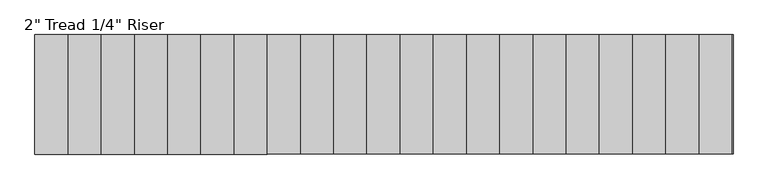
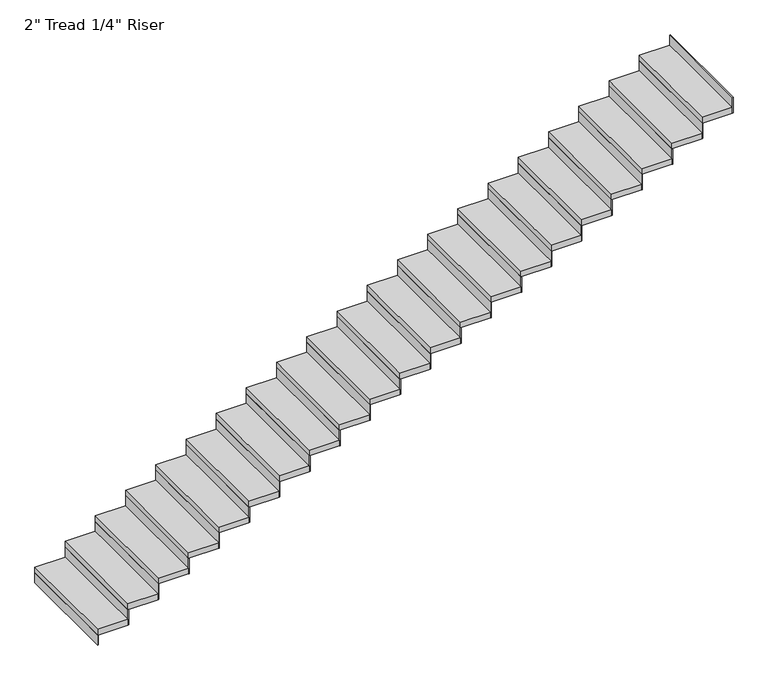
"""IFC4 building model written with IfcOpenShell, lengths in millimetres: stair flight geometry."""

import ifcopenshell
import ifcopenshell.guid

model = None  # the IFC model being written
_history = None  # IfcOwnerHistory: only IFC2X3 demands one
_inside = {}  # id of a spatial element -> (the spatial element, [elements in it])
_under = {}  # id of a project, library or spatial element -> (it, [spatial elements below it])
_declared = {}  # id of a project -> (the project, [libraries it declares])
_typed = {}  # id of a type object -> (the type object, [elements of that type])
_made_of = {}  # id of a material, layer set ... -> (it, [elements and type objects made of it])


def new_model(schema):
    """Start an empty IFC model of exactly this schema.

    Asked for "IFC4X3", IfcOpenShell would pick the latest addendum, in which some entities
    have other attributes; the version numbers below select the first issue.
    IFC2X3 requires an IfcOwnerHistory on every rooted entity: one is made here for all.
    """
    global model, _history
    if schema == "IFC4X3":
        model = ifcopenshell.file(schema_version=(4, 3, 0, 0))
    else:
        model = ifcopenshell.file(schema=schema)
    _inside.clear()
    _under.clear()
    _declared.clear()
    _typed.clear()
    _made_of.clear()
    _history = None
    if model.schema == "IFC2X3":
        org = make("IfcOrganization", Name="unknown")
        user = make(
            "IfcPersonAndOrganization",
            ThePerson=make("IfcPerson", FamilyName="unknown"),
            TheOrganization=org,
        )
        app = make(
            "IfcApplication",
            ApplicationDeveloper=org,
            Version="unknown",
            ApplicationFullName="unknown",
            ApplicationIdentifier="unknown",
        )
        _history = make(
            "IfcOwnerHistory",
            OwningUser=user,
            OwningApplication=app,
            ChangeAction="ADDED",
            CreationDate=0,
        )
    return model


def make(cls, **values):
    """One entity of the class cls with the attributes given. An attribute that is None is left unset."""
    return model.create_entity(
        cls, **{name: value for name, value in values.items() if value is not None}
    )


def rooted(cls, **values):
    """An entity with a GlobalId (a new one), such as an element, a storey or a relation."""
    return make(cls, GlobalId=ifcopenshell.guid.new(), OwnerHistory=_history, **values)


def si_unit(unit_type, name, prefix=None):
    """IfcSIUnit, for example si_unit("LENGTHUNIT", "METRE", prefix="MILLI")."""
    return make("IfcSIUnit", UnitType=unit_type, Prefix=prefix, Name=name)


def assignment(units):
    """IfcUnitAssignment: the units of a project."""
    return None if units is None else make("IfcUnitAssignment", Units=units)


def point(xyz):
    """IfcCartesianPoint."""
    return None if xyz is None else make("IfcCartesianPoint", Coordinates=xyz)


def direction(xyz):
    """IfcDirection."""
    return None if xyz is None else make("IfcDirection", DirectionRatios=xyz)


def frame(location, z_axis=None, x_axis=None):
    """IfcAxis2Placement3D, a coordinate frame: its origin and axes. An axis left out is left unset."""
    return make(
        "IfcAxis2Placement3D",
        Location=point(location),
        Axis=direction(z_axis),
        RefDirection=direction(x_axis),
    )


def origin():
    """The frame at (0, 0, 0) with its axes left unset."""
    return frame((0.0, 0.0, 0.0))


def origin_with_axes():
    """The frame at (0, 0, 0) with the z axis (0, 0, 1) and the x axis (1, 0, 0) written out."""
    return frame((0.0, 0.0, 0.0), z_axis=(0.0, 0.0, 1.0), x_axis=(1.0, 0.0, 0.0))


def place(relative_to, where):
    """IfcLocalPlacement: puts the frame where relative to a parent placement (None: the world)."""
    return make(
        "IfcLocalPlacement", PlacementRelTo=relative_to, RelativePlacement=where
    )


def context(
    kind, dimensions, precision=None, world=None, true_north=None, identifier=None
):
    """IfcGeometricRepresentationContext, for example the 3D "Model" context."""
    return make(
        "IfcGeometricRepresentationContext",
        ContextIdentifier=identifier,
        ContextType=kind,
        CoordinateSpaceDimension=dimensions,
        Precision=precision,
        WorldCoordinateSystem=world,
        TrueNorth=true_north,
    )


def project(units=None, contexts=None):
    """IfcProject with its units and contexts."""
    return rooted(
        "IfcProject",
        Name="project",
        RepresentationContexts=contexts,
        UnitsInContext=assignment(units),
    )


def spatial(cls, under=None, at=None, **own):
    """A site, building, storey or space (cls), placed at a placement, below another one or the project."""
    s = rooted(cls, ObjectPlacement=at, **own)
    if under is not None:
        _under.setdefault(under.id(), (under, []))[1].append(s)
    return s


def polyline(points):
    """IfcPolyline through the points."""
    return make("IfcPolyline", Points=[point(p) for p in points])


def outline(outer, holes=None, kind="AREA"):
    """IfcArbitraryClosedProfileDef: a profile drawn as a closed curve; with holes, ...WithVoids."""
    if holes is None:
        return make("IfcArbitraryClosedProfileDef", ProfileType=kind, OuterCurve=outer)
    return make(
        "IfcArbitraryProfileDefWithVoids",
        ProfileType=kind,
        OuterCurve=outer,
        InnerCurves=holes,
    )


def extrude(swept, where, along, depth):
    """IfcExtrudedAreaSolid: the profile swept, set in the frame where, extruded along a direction by depth."""
    return make(
        "IfcExtrudedAreaSolid",
        SweptArea=swept,
        Position=where,
        ExtrudedDirection=direction(along),
        Depth=depth,
    )


def shape(context_of_items, identifier, shape_type, items):
    """IfcShapeRepresentation: the items that make up one representation, for example the "Body"."""
    return make(
        "IfcShapeRepresentation",
        ContextOfItems=context_of_items,
        RepresentationIdentifier=identifier,
        RepresentationType=shape_type,
        Items=items,
    )


def source(mapping_origin, context_of_items, identifier, shape_type, items):
    """IfcRepresentationMap: a shape defined once, which mapped items show again and again."""
    return make(
        "IfcRepresentationMap",
        MappingOrigin=mapping_origin,
        MappedRepresentation=shape(context_of_items, identifier, shape_type, items),
    )


def transform(
    local_origin,
    x_axis=None,
    y_axis=None,
    z_axis=None,
    scale=None,
    scale2=None,
    scale3=None,
    uniform=True,
):
    """IfcCartesianTransformationOperator3D, or its non-uniform kind. x_axis, y_axis, z_axis: its Axis1, 2, 3."""
    if uniform:
        return make(
            "IfcCartesianTransformationOperator3D",
            Axis1=direction(x_axis),
            Axis2=direction(y_axis),
            LocalOrigin=point(local_origin),
            Scale=scale,
            Axis3=direction(z_axis),
        )
    return make(
        "IfcCartesianTransformationOperator3DnonUniform",
        Axis1=direction(x_axis),
        Axis2=direction(y_axis),
        LocalOrigin=point(local_origin),
        Scale=scale,
        Axis3=direction(z_axis),
        Scale2=scale2,
        Scale3=scale3,
    )


def mapped(mapping_source, mapping_target):
    """IfcMappedItem: shows the shape of a source again, moved by a transform."""
    return make(
        "IfcMappedItem", MappingSource=mapping_source, MappingTarget=mapping_target
    )


def made_of(thing, what):
    """Note that an element or type object is made of a material, layer set ...; save() writes the relation."""
    if what is not None:
        _made_of.setdefault(what.id(), (what, []))[1].append(thing)
    return thing


def element(
    cls,
    number,
    at=None,
    inside=None,
    cuts=None,
    type_object=None,
    material=None,
    context=None,
    identifier="Body",
    shape_type=None,
    held_by="IfcProductDefinitionShape",
    body=None,
    shapes=None,
    **own,
):
    """One element of the class cls, such as IfcWall. Its Tag is "e" and its number.

    at: its placement. inside: the storey or other place that contains it. cuts: it is an
    opening in that element (IfcRelVoidsElement). A single representation is given by context,
    identifier, shape_type and body (its items); several are given by shapes. held_by: the class
    of the entity that holds the representations. save() writes the other relations.
    """
    e = rooted(cls, Tag="e%d" % number, ObjectPlacement=at, **own)
    if body is not None:
        shapes = [shape(context, identifier, shape_type, body)]
    if shapes is not None:
        e.Representation = make(held_by, Representations=shapes)
    if inside is not None:
        _inside.setdefault(inside.id(), (inside, []))[1].append(e)
    if cuts is not None:
        rooted(
            "IfcRelVoidsElement", RelatingBuildingElement=cuts, RelatedOpeningElement=e
        )
    if type_object is not None:
        _typed.setdefault(type_object.id(), (type_object, []))[1].append(e)
    return made_of(e, material)


def aggregate(whole, parts):
    """IfcRelAggregates: a whole, such as a stair, and the parts it consists of."""
    return rooted("IfcRelAggregates", RelatingObject=whole, RelatedObjects=parts)


def save(model, path):
    """Write the relations noted so far, then the file.

    IfcRelAggregates (storeys below a building ...), IfcRelContainedInSpatialStructure (elements
    in a storey), IfcRelDefinesByType, IfcRelAssociatesMaterial and IfcRelDeclares: one each for
    every whole, place, type object, material and project.
    """
    for whole, parts in _under.values():
        aggregate(whole, parts)
    for where, things in _inside.values():
        rooted(
            "IfcRelContainedInSpatialStructure",
            RelatedElements=things,
            RelatingStructure=where,
        )
    for kind, things in _typed.values():
        rooted("IfcRelDefinesByType", RelatedObjects=things, RelatingType=kind)
    for what, things in _made_of.values():
        rooted("IfcRelAssociatesMaterial", RelatedObjects=things, RelatingMaterial=what)
    for by, libraries in _declared.values():
        rooted("IfcRelDeclares", RelatingContext=by, RelatedDefinitions=libraries)
    model.write(path)


def stair_flight_6f39d71a(model_context):
    return source(origin(), model_context, "Body", "SweptSolid", [
        extrude(outline(polyline([(-12441.2873599, 34015.6739583), (-12447.6373599, 34015.6739583), (-12447.6373599, 34930.0739583), (-12441.2873599, 34930.0739583), (-12441.2873599, 34015.6739583)])), origin_with_axes(), (0.0, 0.0, 1.0), 87.7454545),
        extrude(outline(polyline([(-12193.6373599, 34930.0739583), (-12193.6373599, 34015.6739583), (-12447.6373599, 34015.6739583), (-12447.6373599, 34930.0739583), (-12193.6373599, 34930.0739583)])), frame((0.0, 0.0, 87.7454545), z_axis=(0.0, 0.0, 1.0), x_axis=(1.0, 0.0, 0.0)), (0.0, 0.0, 1.0), 50.8),
        extrude(outline(polyline([(-12187.2873599, 34015.6739583), (-12193.6373599, 34015.6739583), (-12193.6373599, 34930.0739583), (-12187.2873599, 34930.0739583), (-12187.2873599, 34015.6739583)])), frame((0.0, 0.0, 87.7454545), z_axis=(0.0, 0.0, 1.0), x_axis=(1.0, 0.0, 0.0)), (0.0, 0.0, 1.0), 138.5454545),
        extrude(outline(polyline([(-11939.6373599, 34930.0739583), (-11939.6373599, 34015.6739583), (-12193.6373599, 34015.6739583), (-12193.6373599, 34930.0739583), (-11939.6373599, 34930.0739583)])), frame((0.0, 0.0, 226.2909091), z_axis=(0.0, 0.0, 1.0), x_axis=(1.0, 0.0, 0.0)), (0.0, 0.0, 1.0), 50.8),
        extrude(outline(polyline([(-11933.2873599, 34015.6739583), (-11939.6373599, 34015.6739583), (-11939.6373599, 34930.0739583), (-11933.2873599, 34930.0739583), (-11933.2873599, 34015.6739583)])), frame((0.0, 0.0, 226.2909091), z_axis=(0.0, 0.0, 1.0), x_axis=(1.0, 0.0, 0.0)), (0.0, 0.0, 1.0), 138.5454545),
        extrude(outline(polyline([(-11685.6373599, 34930.0739583), (-11685.6373599, 34015.6739583), (-11939.6373599, 34015.6739583), (-11939.6373599, 34930.0739583), (-11685.6373599, 34930.0739583)])), frame((0.0, 0.0, 364.8363636), z_axis=(0.0, 0.0, 1.0), x_axis=(1.0, 0.0, 0.0)), (0.0, 0.0, 1.0), 50.8),
        extrude(outline(polyline([(-11679.2873599, 34015.6739583), (-11685.6373599, 34015.6739583), (-11685.6373599, 34930.0739583), (-11679.2873599, 34930.0739583), (-11679.2873599, 34015.6739583)])), frame((0.0, 0.0, 364.8363636), z_axis=(0.0, 0.0, 1.0), x_axis=(1.0, 0.0, 0.0)), (0.0, 0.0, 1.0), 138.5454545),
        extrude(outline(polyline([(-11431.6373599, 34930.0739583), (-11431.6373599, 34015.6739583), (-11685.6373599, 34015.6739583), (-11685.6373599, 34930.0739583), (-11431.6373599, 34930.0739583)])), frame((0.0, 0.0, 503.3818182), z_axis=(0.0, 0.0, 1.0), x_axis=(1.0, 0.0, 0.0)), (0.0, 0.0, 1.0), 50.8),
        extrude(outline(polyline([(-11425.2873599, 34015.6739583), (-11431.6373599, 34015.6739583), (-11431.6373599, 34930.0739583), (-11425.2873599, 34930.0739583), (-11425.2873599, 34015.6739583)])), frame((0.0, 0.0, 503.3818182), z_axis=(0.0, 0.0, 1.0), x_axis=(1.0, 0.0, 0.0)), (0.0, 0.0, 1.0), 138.5454545),
        extrude(outline(polyline([(-11177.6373599, 34930.0739583), (-11177.6373599, 34015.6739583), (-11431.6373599, 34015.6739583), (-11431.6373599, 34930.0739583), (-11177.6373599, 34930.0739583)])), frame((0.0, 0.0, 641.9272727), z_axis=(0.0, 0.0, 1.0), x_axis=(1.0, 0.0, 0.0)), (0.0, 0.0, 1.0), 50.8),
        extrude(outline(polyline([(-11171.2873599, 34015.6739583), (-11177.6373599, 34015.6739583), (-11177.6373599, 34930.0739583), (-11171.2873599, 34930.0739583), (-11171.2873599, 34015.6739583)])), frame((0.0, 0.0, 641.9272727), z_axis=(0.0, 0.0, 1.0), x_axis=(1.0, 0.0, 0.0)), (0.0, 0.0, 1.0), 138.5454545),
        extrude(outline(polyline([(-10923.6373599, 34930.0739583), (-10923.6373599, 34015.6739583), (-11177.6373599, 34015.6739583), (-11177.6373599, 34930.0739583), (-10923.6373599, 34930.0739583)])), frame((0.0, 0.0, 780.4727273), z_axis=(0.0, 0.0, 1.0), x_axis=(1.0, 0.0, 0.0)), (0.0, 0.0, 1.0), 50.8),
        extrude(outline(polyline([(-10917.2873599, 34015.6739583), (-10923.6373599, 34015.6739583), (-10923.6373599, 34930.0739583), (-10917.2873599, 34930.0739583), (-10917.2873599, 34015.6739583)])), frame((0.0, 0.0, 780.4727273), z_axis=(0.0, 0.0, 1.0), x_axis=(1.0, 0.0, 0.0)), (0.0, 0.0, 1.0), 138.5454545),
        extrude(outline(polyline([(-10669.6373599, 34930.0739583), (-10669.6373599, 34015.6739583), (-10923.6373599, 34015.6739583), (-10923.6373599, 34930.0739583), (-10669.6373599, 34930.0739583)])), frame((0.0, 0.0, 919.0181818), z_axis=(0.0, 0.0, 1.0), x_axis=(1.0, 0.0, 0.0)), (0.0, 0.0, 1.0), 50.8),
        extrude(outline(polyline([(-10663.2873599, 34015.6739583), (-10669.6373599, 34015.6739583), (-10669.6373599, 34930.0739583), (-10663.2873599, 34930.0739583), (-10663.2873599, 34015.6739583)])), frame((0.0, 0.0, 919.0181818), z_axis=(0.0, 0.0, 1.0), x_axis=(1.0, 0.0, 0.0)), (0.0, 0.0, 1.0), 138.5454545),
        extrude(outline(polyline([(-10415.6373599, 34930.0739583), (-10415.6373599, 34015.6739583), (-10669.6373599, 34015.6739583), (-10669.6373599, 34930.0739583), (-10415.6373599, 34930.0739583)])), frame((0.0, 0.0, 1057.5636364), z_axis=(0.0, 0.0, 1.0), x_axis=(1.0, 0.0, 0.0)), (0.0, 0.0, 1.0), 50.8),
        extrude(outline(polyline([(-10409.2873599, 34015.6739583), (-10415.6373599, 34015.6739583), (-10415.6373599, 34930.0739583), (-10409.2873599, 34930.0739583), (-10409.2873599, 34015.6739583)])), frame((0.0, 0.0, 1057.5636364), z_axis=(0.0, 0.0, 1.0), x_axis=(1.0, 0.0, 0.0)), (0.0, 0.0, 1.0), 138.5454545),
        extrude(outline(polyline([(-10161.6373599, 34930.0739583), (-10161.6373599, 34015.6739583), (-10415.6373599, 34015.6739583), (-10415.6373599, 34930.0739583), (-10161.6373599, 34930.0739583)])), frame((0.0, 0.0, 1196.1090909), z_axis=(0.0, 0.0, 1.0), x_axis=(1.0, 0.0, 0.0)), (0.0, 0.0, 1.0), 50.8),
        extrude(outline(polyline([(-10155.2873599, 34015.6739583), (-10161.6373599, 34015.6739583), (-10161.6373599, 34930.0739583), (-10155.2873599, 34930.0739583), (-10155.2873599, 34015.6739583)])), frame((0.0, 0.0, 1196.1090909), z_axis=(0.0, 0.0, 1.0), x_axis=(1.0, 0.0, 0.0)), (0.0, 0.0, 1.0), 138.5454545),
        extrude(outline(polyline([(-9907.6373599, 34930.0739583), (-9907.6373599, 34015.6739583), (-10161.6373599, 34015.6739583), (-10161.6373599, 34930.0739583), (-9907.6373599, 34930.0739583)])), frame((0.0, 0.0, 1334.6545455), z_axis=(0.0, 0.0, 1.0), x_axis=(1.0, 0.0, 0.0)), (0.0, 0.0, 1.0), 50.8),
        extrude(outline(polyline([(-9901.2873599, 34015.6739583), (-9907.6373599, 34015.6739583), (-9907.6373599, 34930.0739583), (-9901.2873599, 34930.0739583), (-9901.2873599, 34015.6739583)])), frame((0.0, 0.0, 1334.6545455), z_axis=(0.0, 0.0, 1.0), x_axis=(1.0, 0.0, 0.0)), (0.0, 0.0, 1.0), 138.5454545),
        extrude(outline(polyline([(-9653.6373599, 34930.0739583), (-9653.6373599, 34015.6739583), (-9907.6373599, 34015.6739583), (-9907.6373599, 34930.0739583), (-9653.6373599, 34930.0739583)])), frame((0.0, 0.0, 1473.2), z_axis=(0.0, 0.0, 1.0), x_axis=(1.0, 0.0, 0.0)), (0.0, 0.0, 1.0), 50.8),
        extrude(outline(polyline([(-9647.2873599, 34015.6739583), (-9653.6373599, 34015.6739583), (-9653.6373599, 34930.0739583), (-9647.2873599, 34930.0739583), (-9647.2873599, 34015.6739583)])), frame((0.0, 0.0, 1473.2), z_axis=(0.0, 0.0, 1.0), x_axis=(1.0, 0.0, 0.0)), (0.0, 0.0, 1.0), 138.5454545),
        extrude(outline(polyline([(-9399.6373599, 34930.0739583), (-9399.6373599, 34015.6739583), (-9653.6373599, 34015.6739583), (-9653.6373599, 34930.0739583), (-9399.6373599, 34930.0739583)])), frame((0.0, 0.0, 1611.7454545), z_axis=(0.0, 0.0, 1.0), x_axis=(1.0, 0.0, 0.0)), (0.0, 0.0, 1.0), 50.8),
        extrude(outline(polyline([(-9393.2873599, 34015.6739583), (-9399.6373599, 34015.6739583), (-9399.6373599, 34930.0739583), (-9393.2873599, 34930.0739583), (-9393.2873599, 34015.6739583)])), frame((0.0, 0.0, 1611.7454545), z_axis=(0.0, 0.0, 1.0), x_axis=(1.0, 0.0, 0.0)), (0.0, 0.0, 1.0), 138.5454545),
        extrude(outline(polyline([(-9145.6373599, 34930.0739583), (-9145.6373599, 34015.6739583), (-9399.6373599, 34015.6739583), (-9399.6373599, 34930.0739583), (-9145.6373599, 34930.0739583)])), frame((0.0, 0.0, 1750.2909091), z_axis=(0.0, 0.0, 1.0), x_axis=(1.0, 0.0, 0.0)), (0.0, 0.0, 1.0), 50.8),
        extrude(outline(polyline([(-9139.2873599, 34015.6739583), (-9145.6373599, 34015.6739583), (-9145.6373599, 34930.0739583), (-9139.2873599, 34930.0739583), (-9139.2873599, 34015.6739583)])), frame((0.0, 0.0, 1750.2909091), z_axis=(0.0, 0.0, 1.0), x_axis=(1.0, 0.0, 0.0)), (0.0, 0.0, 1.0), 138.5454545),
        extrude(outline(polyline([(-8891.6373599, 34930.0739583), (-8891.6373599, 34015.6739583), (-9145.6373599, 34015.6739583), (-9145.6373599, 34930.0739583), (-8891.6373599, 34930.0739583)])), frame((0.0, 0.0, 1888.8363636), z_axis=(0.0, 0.0, 1.0), x_axis=(1.0, 0.0, 0.0)), (0.0, 0.0, 1.0), 50.8),
        extrude(outline(polyline([(-8885.2873599, 34015.6739583), (-8891.6373599, 34015.6739583), (-8891.6373599, 34930.0739583), (-8885.2873599, 34930.0739583), (-8885.2873599, 34015.6739583)])), frame((0.0, 0.0, 1888.8363636), z_axis=(0.0, 0.0, 1.0), x_axis=(1.0, 0.0, 0.0)), (0.0, 0.0, 1.0), 138.5454545),
        extrude(outline(polyline([(-8637.6373599, 34930.0739583), (-8637.6373599, 34015.6739583), (-8891.6373599, 34015.6739583), (-8891.6373599, 34930.0739583), (-8637.6373599, 34930.0739583)])), frame((0.0, 0.0, 2027.3818182), z_axis=(0.0, 0.0, 1.0), x_axis=(1.0, 0.0, 0.0)), (0.0, 0.0, 1.0), 50.8),
        extrude(outline(polyline([(-8631.2873599, 34015.6739583), (-8637.6373599, 34015.6739583), (-8637.6373599, 34930.0739583), (-8631.2873599, 34930.0739583), (-8631.2873599, 34015.6739583)])), frame((0.0, 0.0, 2027.3818182), z_axis=(0.0, 0.0, 1.0), x_axis=(1.0, 0.0, 0.0)), (0.0, 0.0, 1.0), 138.5454545),
        extrude(outline(polyline([(-8383.6373599, 34930.0739583), (-8383.6373599, 34015.6739583), (-8637.6373599, 34015.6739583), (-8637.6373599, 34930.0739583), (-8383.6373599, 34930.0739583)])), frame((0.0, 0.0, 2165.9272727), z_axis=(0.0, 0.0, 1.0), x_axis=(1.0, 0.0, 0.0)), (0.0, 0.0, 1.0), 50.8),
        extrude(outline(polyline([(-8377.2873599, 34015.6739583), (-8383.6373599, 34015.6739583), (-8383.6373599, 34930.0739583), (-8377.2873599, 34930.0739583), (-8377.2873599, 34015.6739583)])), frame((0.0, 0.0, 2165.9272727), z_axis=(0.0, 0.0, 1.0), x_axis=(1.0, 0.0, 0.0)), (0.0, 0.0, 1.0), 138.5454545),
        extrude(outline(polyline([(-8129.6373599, 34930.0739583), (-8129.6373599, 34015.6739583), (-8383.6373599, 34015.6739583), (-8383.6373599, 34930.0739583), (-8129.6373599, 34930.0739583)])), frame((0.0, 0.0, 2304.4727273), z_axis=(0.0, 0.0, 1.0), x_axis=(1.0, 0.0, 0.0)), (0.0, 0.0, 1.0), 50.8),
        extrude(outline(polyline([(-8123.2873599, 34015.6739583), (-8129.6373599, 34015.6739583), (-8129.6373599, 34930.0739583), (-8123.2873599, 34930.0739583), (-8123.2873599, 34015.6739583)])), frame((0.0, 0.0, 2304.4727273), z_axis=(0.0, 0.0, 1.0), x_axis=(1.0, 0.0, 0.0)), (0.0, 0.0, 1.0), 138.5454545),
        extrude(outline(polyline([(-7875.6373599, 34930.0739583), (-7875.6373599, 34015.6739583), (-8129.6373599, 34015.6739583), (-8129.6373599, 34930.0739583), (-7875.6373599, 34930.0739583)])), frame((0.0, 0.0, 2443.0181818), z_axis=(0.0, 0.0, 1.0), x_axis=(1.0, 0.0, 0.0)), (0.0, 0.0, 1.0), 50.8),
        extrude(outline(polyline([(-7869.2873599, 34015.6739583), (-7875.6373599, 34015.6739583), (-7875.6373599, 34930.0739583), (-7869.2873599, 34930.0739583), (-7869.2873599, 34015.6739583)])), frame((0.0, 0.0, 2443.0181818), z_axis=(0.0, 0.0, 1.0), x_axis=(1.0, 0.0, 0.0)), (0.0, 0.0, 1.0), 138.5454545),
        extrude(outline(polyline([(-7621.6373599, 34930.0739583), (-7621.6373599, 34015.6739583), (-7875.6373599, 34015.6739583), (-7875.6373599, 34930.0739583), (-7621.6373599, 34930.0739583)])), frame((0.0, 0.0, 2581.5636364), z_axis=(0.0, 0.0, 1.0), x_axis=(1.0, 0.0, 0.0)), (0.0, 0.0, 1.0), 50.8),
        extrude(outline(polyline([(-7615.2873599, 34015.6739583), (-7621.6373599, 34015.6739583), (-7621.6373599, 34930.0739583), (-7615.2873599, 34930.0739583), (-7615.2873599, 34015.6739583)])), frame((0.0, 0.0, 2581.5636364), z_axis=(0.0, 0.0, 1.0), x_axis=(1.0, 0.0, 0.0)), (0.0, 0.0, 1.0), 138.5454545),
        extrude(outline(polyline([(-7367.6373599, 34930.0739583), (-7367.6373599, 34015.6739583), (-7621.6373599, 34015.6739583), (-7621.6373599, 34930.0739583), (-7367.6373599, 34930.0739583)])), frame((0.0, 0.0, 2720.1090909), z_axis=(0.0, 0.0, 1.0), x_axis=(1.0, 0.0, 0.0)), (0.0, 0.0, 1.0), 50.8),
        extrude(outline(polyline([(-7361.2873599, 34015.6739583), (-7367.6373599, 34015.6739583), (-7367.6373599, 34930.0739583), (-7361.2873599, 34930.0739583), (-7361.2873599, 34015.6739583)])), frame((0.0, 0.0, 2720.1090909), z_axis=(0.0, 0.0, 1.0), x_axis=(1.0, 0.0, 0.0)), (0.0, 0.0, 1.0), 138.5454545),
        extrude(outline(polyline([(-7107.2873599, 34015.6739583), (-7113.6373599, 34015.6739583), (-7113.6373599, 34930.0739583), (-7107.2873599, 34930.0739583), (-7107.2873599, 34015.6739583)])), frame((0.0, 0.0, 2858.6545455), z_axis=(0.0, 0.0, 1.0), x_axis=(1.0, 0.0, 0.0)), (0.0, 0.0, 1.0), 138.5454545),
        extrude(outline(polyline([(-7113.6373599, 34930.0739583), (-7113.6373599, 34015.6739583), (-7367.6373599, 34015.6739583), (-7367.6373599, 34930.0739583), (-7113.6373599, 34930.0739583)])), frame((0.0, 0.0, 2858.6545455), z_axis=(0.0, 0.0, 1.0), x_axis=(1.0, 0.0, 0.0)), (0.0, 0.0, 1.0), 50.8),
    ])


if __name__ == "__main__":
    model = new_model("IFC4")
    model_context = context("Model", 3, world=origin())
    ifc_project = project(units=[si_unit("LENGTHUNIT", "METRE", prefix="MILLI")], contexts=[model_context])
    site = spatial("IfcSite", under=ifc_project)
    building = spatial("IfcBuilding", under=site)
    placement = place(None, origin())
    stair_flight_shape = stair_flight_6f39d71a(model_context)
    element("IfcStairFlight", 1, ObjectType="2\" Tread 1/4\" Riser", at=placement, inside=building, context=model_context, shape_type="MappedRepresentation", body=[
        mapped(stair_flight_shape, transform((0.0, 0.0, 0.0), x_axis=(1.0, 0.0, 0.0), y_axis=(0.0, 1.0, 0.0), z_axis=(0.0, 0.0, 1.0))),
    ])
    save(model, "model.ifc")
